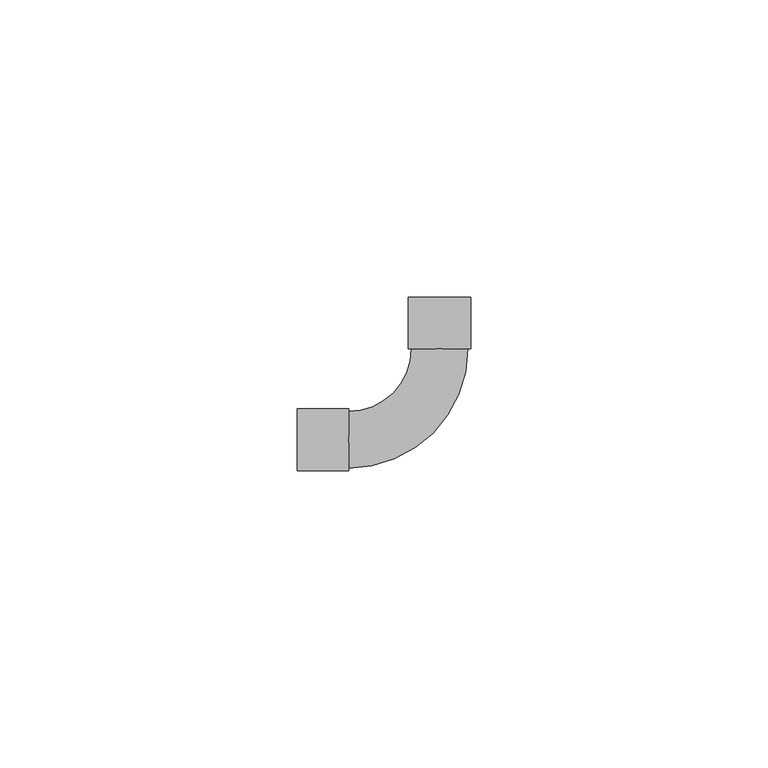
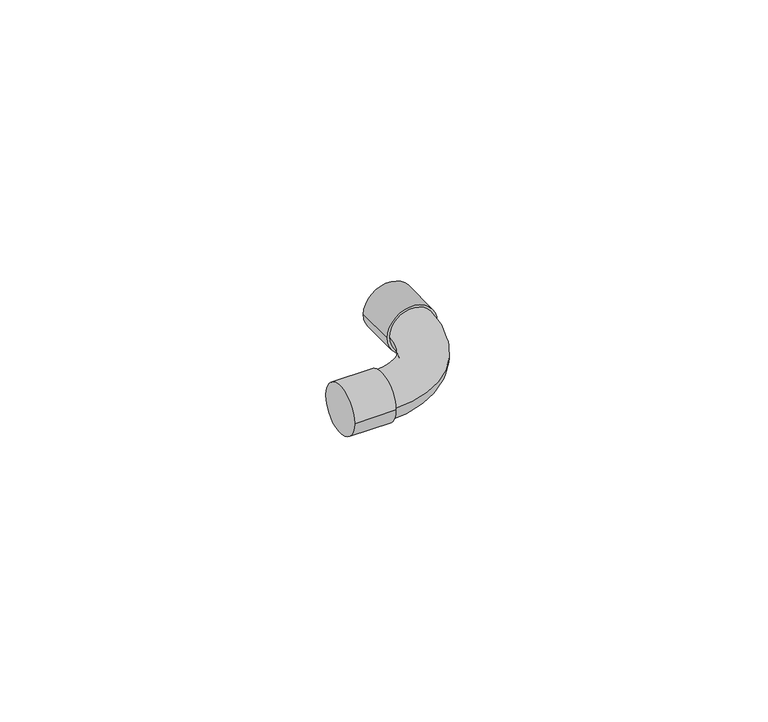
"""IFC4 building model written with IfcOpenShell, lengths in millimetres: pipe fitting geometry, Cotovelo - Soldado - CU : Padrão."""

import ifcopenshell
import ifcopenshell.guid

model = None  # the IFC model being written
_history = None  # IfcOwnerHistory: only IFC2X3 demands one
_inside = {}  # id of a spatial element -> (the spatial element, [elements in it])
_under = {}  # id of a project, library or spatial element -> (it, [spatial elements below it])
_declared = {}  # id of a project -> (the project, [libraries it declares])
_typed = {}  # id of a type object -> (the type object, [elements of that type])
_made_of = {}  # id of a material, layer set ... -> (it, [elements and type objects made of it])


def new_model(schema):
    """Start an empty IFC model of exactly this schema.

    Asked for "IFC4X3", IfcOpenShell would pick the latest addendum, in which some entities
    have other attributes; the version numbers below select the first issue.
    IFC2X3 requires an IfcOwnerHistory on every rooted entity: one is made here for all.
    """
    global model, _history
    if schema == "IFC4X3":
        model = ifcopenshell.file(schema_version=(4, 3, 0, 0))
    else:
        model = ifcopenshell.file(schema=schema)
    _inside.clear()
    _under.clear()
    _declared.clear()
    _typed.clear()
    _made_of.clear()
    _history = None
    if model.schema == "IFC2X3":
        org = make("IfcOrganization", Name="unknown")
        user = make(
            "IfcPersonAndOrganization",
            ThePerson=make("IfcPerson", FamilyName="unknown"),
            TheOrganization=org,
        )
        app = make(
            "IfcApplication",
            ApplicationDeveloper=org,
            Version="unknown",
            ApplicationFullName="unknown",
            ApplicationIdentifier="unknown",
        )
        _history = make(
            "IfcOwnerHistory",
            OwningUser=user,
            OwningApplication=app,
            ChangeAction="ADDED",
            CreationDate=0,
        )
    return model


def make(cls, **values):
    """One entity of the class cls with the attributes given. An attribute that is None is left unset."""
    return model.create_entity(
        cls, **{name: value for name, value in values.items() if value is not None}
    )


def rooted(cls, **values):
    """An entity with a GlobalId (a new one), such as an element, a storey or a relation."""
    return make(cls, GlobalId=ifcopenshell.guid.new(), OwnerHistory=_history, **values)


def si_unit(unit_type, name, prefix=None):
    """IfcSIUnit, for example si_unit("LENGTHUNIT", "METRE", prefix="MILLI")."""
    return make("IfcSIUnit", UnitType=unit_type, Prefix=prefix, Name=name)


def assignment(units):
    """IfcUnitAssignment: the units of a project."""
    return None if units is None else make("IfcUnitAssignment", Units=units)


def point(xyz):
    """IfcCartesianPoint."""
    return None if xyz is None else make("IfcCartesianPoint", Coordinates=xyz)


def direction(xyz):
    """IfcDirection."""
    return None if xyz is None else make("IfcDirection", DirectionRatios=xyz)


def frame(location, z_axis=None, x_axis=None):
    """IfcAxis2Placement3D, a coordinate frame: its origin and axes. An axis left out is left unset."""
    return make(
        "IfcAxis2Placement3D",
        Location=point(location),
        Axis=direction(z_axis),
        RefDirection=direction(x_axis),
    )


def origin():
    """The frame at (0, 0, 0) with its axes left unset."""
    return frame((0.0, 0.0, 0.0))


def place(relative_to, where):
    """IfcLocalPlacement: puts the frame where relative to a parent placement (None: the world)."""
    return make(
        "IfcLocalPlacement", PlacementRelTo=relative_to, RelativePlacement=where
    )


def context(
    kind, dimensions, precision=None, world=None, true_north=None, identifier=None
):
    """IfcGeometricRepresentationContext, for example the 3D "Model" context."""
    return make(
        "IfcGeometricRepresentationContext",
        ContextIdentifier=identifier,
        ContextType=kind,
        CoordinateSpaceDimension=dimensions,
        Precision=precision,
        WorldCoordinateSystem=world,
        TrueNorth=true_north,
    )


def project(units=None, contexts=None):
    """IfcProject with its units and contexts."""
    return rooted(
        "IfcProject",
        Name="project",
        RepresentationContexts=contexts,
        UnitsInContext=assignment(units),
    )


def spatial(cls, under=None, at=None, **own):
    """A site, building, storey or space (cls), placed at a placement, below another one or the project."""
    s = rooted(cls, ObjectPlacement=at, **own)
    if under is not None:
        _under.setdefault(under.id(), (under, []))[1].append(s)
    return s


def circle_curve(where, radius):
    """IfcCircle in the frame where."""
    return make("IfcCircle", Position=where, Radius=radius)


def ellipse_curve(where, semi_axis1, semi_axis2):
    """IfcEllipse in the frame where."""
    return make(
        "IfcEllipse", Position=where, SemiAxis1=semi_axis1, SemiAxis2=semi_axis2
    )


def trimmed(basis, trim1, trim2, sense, master):
    """IfcTrimmedCurve: the piece of a basis curve between two trims."""
    return make(
        "IfcTrimmedCurve",
        BasisCurve=basis,
        Trim1=trim1,
        Trim2=trim2,
        SenseAgreement=sense,
        MasterRepresentation=master,
    )


def shape(context_of_items, identifier, shape_type, items):
    """IfcShapeRepresentation: the items that make up one representation, for example the "Body"."""
    return make(
        "IfcShapeRepresentation",
        ContextOfItems=context_of_items,
        RepresentationIdentifier=identifier,
        RepresentationType=shape_type,
        Items=items,
    )


def source(mapping_origin, context_of_items, identifier, shape_type, items):
    """IfcRepresentationMap: a shape defined once, which mapped items show again and again."""
    return make(
        "IfcRepresentationMap",
        MappingOrigin=mapping_origin,
        MappedRepresentation=shape(context_of_items, identifier, shape_type, items),
    )


def transform(
    local_origin,
    x_axis=None,
    y_axis=None,
    z_axis=None,
    scale=None,
    scale2=None,
    scale3=None,
    uniform=True,
):
    """IfcCartesianTransformationOperator3D, or its non-uniform kind. x_axis, y_axis, z_axis: its Axis1, 2, 3."""
    if uniform:
        return make(
            "IfcCartesianTransformationOperator3D",
            Axis1=direction(x_axis),
            Axis2=direction(y_axis),
            LocalOrigin=point(local_origin),
            Scale=scale,
            Axis3=direction(z_axis),
        )
    return make(
        "IfcCartesianTransformationOperator3DnonUniform",
        Axis1=direction(x_axis),
        Axis2=direction(y_axis),
        LocalOrigin=point(local_origin),
        Scale=scale,
        Axis3=direction(z_axis),
        Scale2=scale2,
        Scale3=scale3,
    )


def mapped(mapping_source, mapping_target):
    """IfcMappedItem: shows the shape of a source again, moved by a transform."""
    return make(
        "IfcMappedItem", MappingSource=mapping_source, MappingTarget=mapping_target
    )


def made_of(thing, what):
    """Note that an element or type object is made of a material, layer set ...; save() writes the relation."""
    if what is not None:
        _made_of.setdefault(what.id(), (what, []))[1].append(thing)
    return thing


def element(
    cls,
    number,
    at=None,
    inside=None,
    cuts=None,
    type_object=None,
    material=None,
    context=None,
    identifier="Body",
    shape_type=None,
    held_by="IfcProductDefinitionShape",
    body=None,
    shapes=None,
    **own,
):
    """One element of the class cls, such as IfcWall. Its Tag is "e" and its number.

    at: its placement. inside: the storey or other place that contains it. cuts: it is an
    opening in that element (IfcRelVoidsElement). A single representation is given by context,
    identifier, shape_type and body (its items); several are given by shapes. held_by: the class
    of the entity that holds the representations. save() writes the other relations.
    """
    e = rooted(cls, Tag="e%d" % number, ObjectPlacement=at, **own)
    if body is not None:
        shapes = [shape(context, identifier, shape_type, body)]
    if shapes is not None:
        e.Representation = make(held_by, Representations=shapes)
    if inside is not None:
        _inside.setdefault(inside.id(), (inside, []))[1].append(e)
    if cuts is not None:
        rooted(
            "IfcRelVoidsElement", RelatingBuildingElement=cuts, RelatedOpeningElement=e
        )
    if type_object is not None:
        _typed.setdefault(type_object.id(), (type_object, []))[1].append(e)
    return made_of(e, material)


def aggregate(whole, parts):
    """IfcRelAggregates: a whole, such as a stair, and the parts it consists of."""
    return rooted("IfcRelAggregates", RelatingObject=whole, RelatedObjects=parts)


def save(model, path):
    """Write the relations noted so far, then the file.

    IfcRelAggregates (storeys below a building ...), IfcRelContainedInSpatialStructure (elements
    in a storey), IfcRelDefinesByType, IfcRelAssociatesMaterial and IfcRelDeclares: one each for
    every whole, place, type object, material and project.
    """
    for whole, parts in _under.values():
        aggregate(whole, parts)
    for where, things in _inside.values():
        rooted(
            "IfcRelContainedInSpatialStructure",
            RelatedElements=things,
            RelatingStructure=where,
        )
    for kind, things in _typed.values():
        rooted("IfcRelDefinesByType", RelatedObjects=things, RelatingType=kind)
    for what, things in _made_of.values():
        rooted("IfcRelAssociatesMaterial", RelatedObjects=things, RelatingMaterial=what)
    for by, libraries in _declared.values():
        rooted("IfcRelDeclares", RelatingContext=by, RelatedDefinitions=libraries)
    model.write(path)


def plane_surface(at):
    """IfcPlane: the flat surface through the origin of the frame at, square to its z axis."""
    return make("IfcPlane", Position=at)


def cylinder_surface(at, radius):
    """IfcCylindricalSurface: all points at the distance radius from the z axis of the frame at."""
    return make("IfcCylindricalSurface", Position=at, Radius=radius)


def revolved_surface(curve, axis_point, axis_direction):
    """IfcSurfaceOfRevolution: the curve turned about the line through axis_point along axis_direction."""
    return make(
        "IfcSurfaceOfRevolution",
        SweptCurve=make("IfcArbitraryOpenProfileDef", ProfileType="CURVE", Curve=curve),
        AxisPosition=make("IfcAxis1Placement", Location=point(axis_point), Axis=direction(axis_direction)),
    )


def advanced_brep(points, edges, surfaces, faces):
    """IfcAdvancedBrep: a solid bounded by faces that lie on surfaces and meet in shared edges.

    An edge is (start, end): straight between two places in points (the first is 0);
    or (start, end, curve); or (start, end, curve, False) where it runs against its curve.
    A face is (place in surfaces, loops), or (place, loops, False) where it looks against
    its surface's normal. A loop lists edges by number (the first is 1), with a minus sign
    where the edge is run from its end to its start. The first loop is the outer one.
    """
    corners = [point(p) for p in points]
    vertices = [make("IfcVertexPoint", VertexGeometry=c) for c in corners]
    made = []
    for start, end, *more in edges:
        made.append(
            make(
                "IfcEdgeCurve",
                EdgeStart=vertices[start],
                EdgeEnd=vertices[end],
                EdgeGeometry=more[0] if more else make("IfcPolyline", Points=[corners[start], corners[end]]),
                SameSense=more[1] if len(more) > 1 else True,
            )
        )
    hull = []
    for where, loops, *sense in faces:
        bounds = []
        for j, loop in enumerate(loops):
            ring = [make("IfcOrientedEdge", EdgeElement=made[abs(k) - 1], Orientation=k > 0) for k in loop]
            bounds.append(
                make(
                    "IfcFaceOuterBound" if j == 0 else "IfcFaceBound",
                    Bound=make("IfcEdgeLoop", EdgeList=ring),
                    Orientation=True,
                )
            )
        hull.append(make("IfcAdvancedFace", Bounds=bounds, FaceSurface=surfaces[where], SameSense=sense[0] if sense else True))
    return make("IfcAdvancedBrep", Outer=make("IfcClosedShell", CfsFaces=hull))


def pipe_fitting_260e0dbe(model_context):
    return source(origin(), model_context, "Body", "AdvancedBrep", [
        advanced_brep(
        [(-4.7642839, 15.349871, 0.0), (-15.3512, 4.76, 0.0), (-15.3512, -4.76, 0.0), (4.7557158, 15.3525278, 0.0), (-24.0256, -5.2552, 0.0), (-24.0256, 5.2552, 0.0), (-15.3512, -5.2552, 0.0), (-15.3512, 5.2552, 0.0), (-5.2619046, 24.0241325, 0.0), (5.248495, 24.0270656, 0.0), (-5.2594838, 15.3497328, 0.0), (5.2509158, 15.352666, 0.0)],
        [
            (0, 1, circle_curve(frame((-15.3512, 15.3469166, 0.0), z_axis=(0.0, 0.0, -1.0), x_axis=(0.0, -1.0, 0.0)), 10.5869166)),
            (1, 2, circle_curve(frame((-15.3512, 0.0, 0.0), z_axis=(1.0, 0.0, 0.0), x_axis=(0.0, 1.0, 0.0)), 4.76)),
            (2, 3, circle_curve(frame((-15.3512, 15.3469166, 0.0), z_axis=(0.0, 0.0, 1.0), x_axis=(0.0, -1.0, 0.0)), 20.1069166)),
            (3, 0, circle_curve(frame((-0.004284, 15.3511994, 0.0), z_axis=(0.0002790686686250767, -0.9999999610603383, 0.0), x_axis=(-0.9999999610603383, -0.0002790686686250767, 0.0)), 4.76)),
            (0, 3, circle_curve(frame((-0.004284, 15.3511994, 0.0), z_axis=(0.0002790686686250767, -0.9999999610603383, 0.0), x_axis=(-0.9999999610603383, -0.0002790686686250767, 0.0)), 4.76)),
            (2, 1, circle_curve(frame((-15.3512, 0.0, 0.0), z_axis=(1.0, 0.0, 0.0), x_axis=(0.0, 1.0, 0.0)), 4.76)),
            (4, 5, circle_curve(frame((-24.0256, 0.0, 0.0), z_axis=(-1.0, 0.0, 0.0), x_axis=(0.0, 1.0, 0.0)), 5.2552)),
            (5, 4, circle_curve(frame((-24.0256, 0.0, 0.0), z_axis=(-1.0, 0.0, 0.0), x_axis=(0.0, 1.0, 0.0)), 5.2552)),
            (6, 7, circle_curve(frame((-15.3512, 0.0, 0.0), z_axis=(1.0, 0.0, 0.0), x_axis=(0.0, 1.0, 0.0)), 5.2552)),
            (7, 6, circle_curve(frame((-15.3512, 0.0, 0.0), z_axis=(1.0, 0.0, 0.0), x_axis=(0.0, 1.0, 0.0)), 5.2552)),
            (4, 6),
            (7, 5),
            (8, 9, circle_curve(frame((-0.0067048, 24.0255991, 0.0), z_axis=(-0.00027906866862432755, 0.9999999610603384, 0.0), x_axis=(0.9999999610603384, 0.00027906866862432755, 0.0)), 5.2552)),
            (9, 8, circle_curve(frame((-0.0067048, 24.0255991, 0.0), z_axis=(-0.00027906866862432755, 0.9999999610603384, 0.0), x_axis=(0.9999999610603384, 0.00027906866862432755, 0.0)), 5.2552)),
            (10, 11, circle_curve(frame((-0.004284, 15.3511994, 0.0), z_axis=(0.00027906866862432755, -0.9999999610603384, 0.0), x_axis=(0.9999999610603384, 0.00027906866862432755, 0.0)), 5.2552)),
            (11, 10, circle_curve(frame((-0.004284, 15.3511994, 0.0), z_axis=(0.00027906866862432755, -0.9999999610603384, 0.0), x_axis=(0.9999999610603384, 0.00027906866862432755, 0.0)), 5.2552)),
            (8, 10),
            (11, 9),
        ],
        [
            revolved_surface(trimmed(ellipse_curve(frame((-15.3512, 0.0, 0.0), z_axis=(-1.0, 0.0, 0.0), x_axis=(0.0, 1.0, 0.0)), 4.76, 4.76), [point((-15.3512, -4.76, 0.0))], [point((-15.3512, 4.76, 0.0))], True, "CARTESIAN"), (-15.3512, 15.3469166, 0.0), (0.0, 0.0, 1.0)),
            revolved_surface(trimmed(ellipse_curve(frame((-15.3512, 0.0, 0.0), z_axis=(-1.0, 0.0, 0.0), x_axis=(0.0, 1.0, 0.0)), 4.76, 4.76), [point((-15.3512, 4.76, 0.0))], [point((-15.3512, -4.76, 0.0))], True, "CARTESIAN"), (-15.3512, 15.3469166, 0.0), (0.0, 0.0, 1.0)),
            plane_surface(frame((-24.0256, 0.0, 0.0), z_axis=(-1.0, 0.0, 0.0), x_axis=(0.0, 0.0, 1.0))),
            plane_surface(frame((-15.3512, 0.0, 0.0), z_axis=(1.0, 0.0, 0.0), x_axis=(0.0, 0.0, 1.0))),
            cylinder_surface(frame((-24.0256, 0.0, 0.0), z_axis=(-1.0, 0.0, 0.0), x_axis=(0.0, 1.0, 0.0)), 5.2552),
            plane_surface(frame((-0.0067048, 24.0255991, 0.0), z_axis=(-0.0002790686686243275, 0.9999999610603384, 0.0), x_axis=(0.0, 0.0, 1.0))),
            plane_surface(frame((-0.004284, 15.3511994, 0.0), z_axis=(0.0002790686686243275, -0.9999999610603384, 0.0), x_axis=(0.0, 0.0, 1.0))),
            cylinder_surface(frame((-0.0067048, 24.0255991, 0.0), z_axis=(-0.00027906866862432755, 0.9999999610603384, 0.0), x_axis=(0.9999999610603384, 0.00027906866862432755, 0.0)), 5.2552),
        ],
        [
            (0, [[1, 2, 3, 4]]),
            (1, [[-1, 5, -3, 6]]),
            (2, [[7, 8]]),
            (3, [[9, 10], [-2, -6]]),
            (4, [[-7, 11, -10, 12]]),
            (4, [[-8, -12, -9, -11]]),
            (5, [[13, 14]]),
            (6, [[15, 16], [-4, -5]]),
            (7, [[-13, 17, -16, 18]]),
            (7, [[-14, -18, -15, -17]]),
        ],
    ),
    ])


if __name__ == "__main__":
    model = new_model("IFC4")
    model_context = context("Model", 3, world=origin())
    ifc_project = project(units=[si_unit("LENGTHUNIT", "METRE", prefix="MILLI")], contexts=[model_context])
    site = spatial("IfcSite", under=ifc_project)
    building = spatial("IfcBuilding", under=site)
    placement = place(None, origin())
    pipe_fitting_shape = pipe_fitting_260e0dbe(model_context)
    element("IfcPipeFitting", 1, ObjectType="Cotovelo - Soldado - CU : Padrão", at=placement, inside=building, context=model_context, shape_type="MappedRepresentation", body=[
        mapped(pipe_fitting_shape, transform((0.0, 0.0, 0.0), x_axis=(1.0, 0.0, 0.0), y_axis=(0.0, 1.0, 0.0), z_axis=(0.0, 0.0, 1.0))),
    ])
    save(model, "model.ifc")
